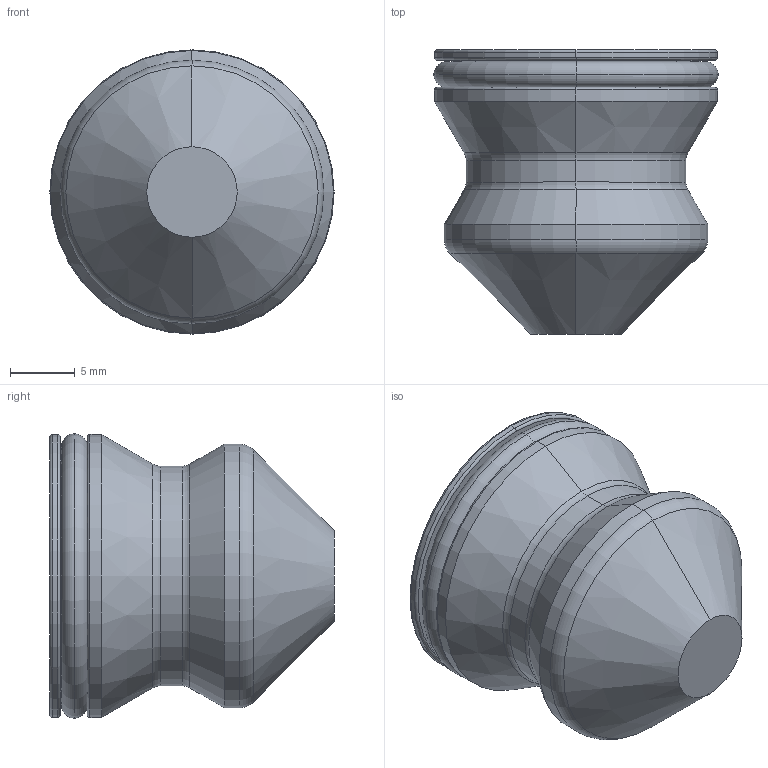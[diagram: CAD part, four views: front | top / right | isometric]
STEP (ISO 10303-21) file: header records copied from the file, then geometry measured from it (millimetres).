
FILE_DESCRIPTION (( 'STEP AP214' ), '1' );
FILE_NAME ('BHJT-10.STEP', '2021-09-28T08:52:04', ( '' ), ( '' ), 'SwSTEP 2.0', 'SolidWorks 2018', '' );
FILE_SCHEMA (( 'AUTOMOTIVE_DESIGN' ));
Length unit declared in the file: millimetre
Products named in the file (3): 18x2O型圈; 保护塞; BHJT-10
Assembly tree (2 placements, depth 2):
  BHJT-10
    保护塞
    18x2O型圈
Bounding box: 22 x 22 x 22 mm (x, y, z)
Volume: 5501.9 mm3; surface area: 2579.2 mm2
Topology: 2 solids, 2 shells, 40 faces, 80 edges, 43 vertices
Faces by surface type: torus 16, cylinder 12, cone 8, plane 4
Entity records: 1160 total; most frequent: DIRECTION 226, CARTESIAN_POINT 166, ORIENTED_EDGE 156, AXIS2_PLACEMENT_3D 103, EDGE_CURVE 78, CIRCLE 58, EDGE_LOOP 43, VERTEX_POINT 43
